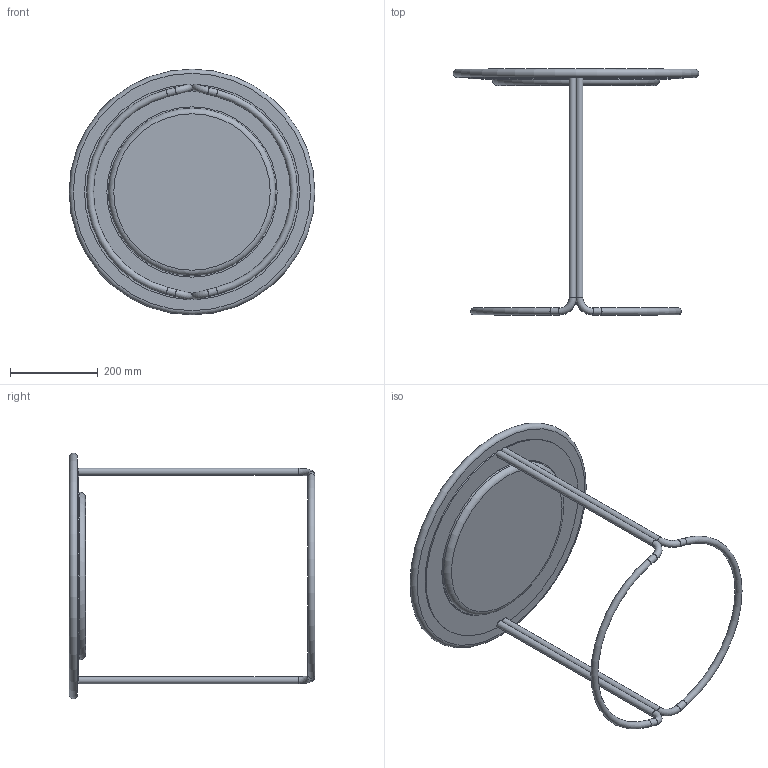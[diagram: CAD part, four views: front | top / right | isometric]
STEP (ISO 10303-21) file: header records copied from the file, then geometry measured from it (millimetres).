
FILE_DESCRIPTION(/* description */ (''),/* implementation_level */ '2;1');
FILE_NAME(/* name */ '1071.stp',/* time_stamp */ '2025-09-26T14:32:31-04:00',/* author */ ('abieber'),/* organization */ (''),/* preprocessor_version */ 'ST-DEVELOPER v20',/* originating_system */ 'Autodesk Inventor 2025',/* authorisation */ '');
FILE_SCHEMA (('AUTOMOTIVE_DESIGN { 1 0 10303 214 3 1 1 }'));
Length unit declared in the file: inch
Products named in the file (8): 1071; 1071-TOP - PROTOTYPE; 1071-SUBTOP - PROTOTYPE; BA1071; BA1071-003; BA1071-005 ; BA1071-004 ; BA1071-001 
Assembly tree (9 placements, depth 4):
  1071
    1071-TOP - PROTOTYPE
    1071-SUBTOP - PROTOTYPE
    BA1071
      BA1071-003  x2
        BA1071-005 
        BA1071-004 
      BA1071-001 
Bounding box: 558.8 x 558.8 x 558.8 mm (x, y, z)
Volume: 7557213.6 mm3; surface area: 1076785.2 mm2
Topology: 9 solids, 9 shells, 46 faces, 84 edges, 56 vertices
Faces by surface type: plane 22, cylinder 16, torus 8
Full cylindrical faces by diameter (mm): 15.875 x8, 381 x1, 387.35 x1
Entity records: 1048 total; most frequent: DIRECTION 176, CARTESIAN_POINT 135, ORIENTED_EDGE 108, AXIS2_PLACEMENT_3D 77, EDGE_CURVE 54, VERTEX_POINT 36, CIRCLE 32, EDGE_LOOP 30
